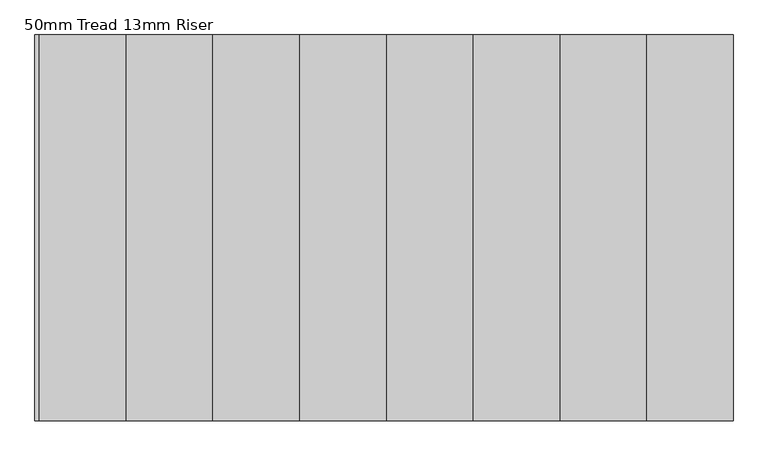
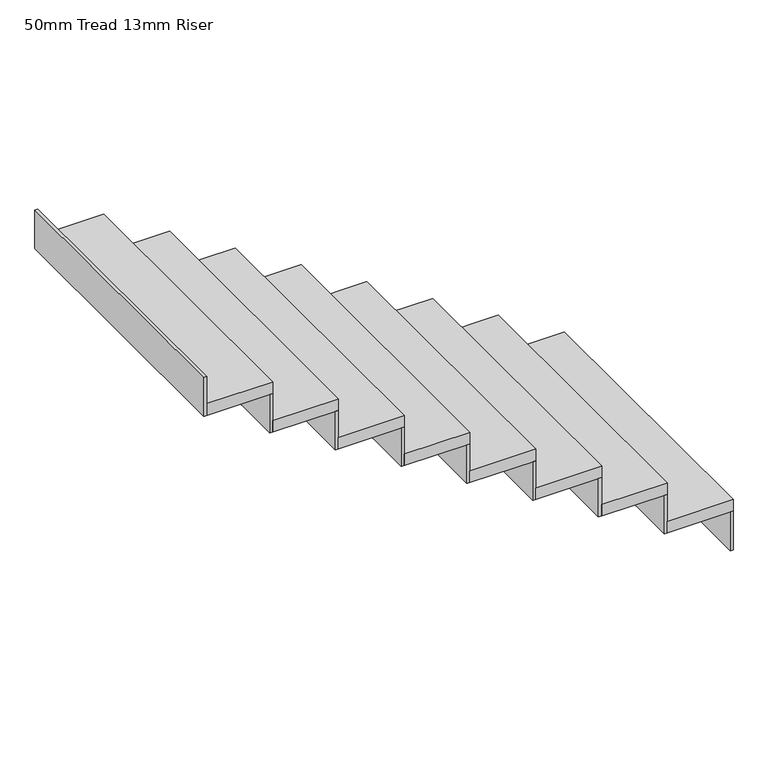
"""IFC4 building model written with IfcOpenShell, lengths in millimetres: stair flight geometry, 50mm Tread 13mm Riser."""

from ifc_helpers import new_model, si_unit, frame, origin, place, context, project, spatial, polyline, outline, extrude, source, transform, mapped, element, save


def stair_flight_50mm_tread_13mm_riser_b98c4656(model_context):
    return source(origin(), model_context, "Body", "SweptSolid", [
        extrude(outline(polyline([(-75811.0913038, 13392.1710387), (-75798.5913038, 13392.1710387), (-75798.5913038, 12192.1710387), (-75811.0913038, 12192.1710387), (-75811.0913038, 13392.1710387)])), frame((0.0, 0.0, 46612.5), z_axis=(0.0, 0.0, 1.0), x_axis=(1.0, 0.0, 0.0)), (0.0, 0.0, 1.0), 167.5),
        extrude(outline(polyline([(-76068.5913038, 12192.1710387), (-76068.5913038, 13392.1710387), (-75798.5913038, 13392.1710387), (-75798.5913038, 12192.1710387), (-76068.5913038, 12192.1710387)])), frame((0.0, 0.0, 46780.0), z_axis=(0.0, 0.0, 1.0), x_axis=(1.0, 0.0, 0.0)), (0.0, 0.0, 1.0), 50.0),
        extrude(outline(polyline([(-76081.0913038, 13392.1710387), (-76068.5913038, 13392.1710387), (-76068.5913038, 12192.1710387), (-76081.0913038, 12192.1710387), (-76081.0913038, 13392.1710387)])), frame((0.0, 0.0, 46780.0), z_axis=(0.0, 0.0, 1.0), x_axis=(1.0, 0.0, 0.0)), (0.0, 0.0, 1.0), 167.5),
        extrude(outline(polyline([(-76338.5913038, 12192.1710387), (-76338.5913038, 13392.1710387), (-76068.5913038, 13392.1710387), (-76068.5913038, 12192.1710387), (-76338.5913038, 12192.1710387)])), frame((0.0, 0.0, 46947.5), z_axis=(0.0, 0.0, 1.0), x_axis=(1.0, 0.0, 0.0)), (0.0, 0.0, 1.0), 50.0),
        extrude(outline(polyline([(-76351.0913038, 13392.1710387), (-76338.5913038, 13392.1710387), (-76338.5913038, 12192.1710387), (-76351.0913038, 12192.1710387), (-76351.0913038, 13392.1710387)])), frame((0.0, 0.0, 46947.5), z_axis=(0.0, 0.0, 1.0), x_axis=(1.0, 0.0, 0.0)), (0.0, 0.0, 1.0), 167.5),
        extrude(outline(polyline([(-76608.5913038, 12192.1710387), (-76608.5913038, 13392.1710387), (-76338.5913038, 13392.1710387), (-76338.5913038, 12192.1710387), (-76608.5913038, 12192.1710387)])), frame((0.0, 0.0, 47115.0), z_axis=(0.0, 0.0, 1.0), x_axis=(1.0, 0.0, 0.0)), (0.0, 0.0, 1.0), 50.0),
        extrude(outline(polyline([(-76621.0913038, 13392.1710387), (-76608.5913038, 13392.1710387), (-76608.5913038, 12192.1710387), (-76621.0913038, 12192.1710387), (-76621.0913038, 13392.1710387)])), frame((0.0, 0.0, 47115.0), z_axis=(0.0, 0.0, 1.0), x_axis=(1.0, 0.0, 0.0)), (0.0, 0.0, 1.0), 167.5),
        extrude(outline(polyline([(-76878.5913038, 12192.1710387), (-76878.5913038, 13392.1710387), (-76608.5913038, 13392.1710387), (-76608.5913038, 12192.1710387), (-76878.5913038, 12192.1710387)])), frame((0.0, 0.0, 47282.5), z_axis=(0.0, 0.0, 1.0), x_axis=(1.0, 0.0, 0.0)), (0.0, 0.0, 1.0), 50.0),
        extrude(outline(polyline([(-76891.0913038, 13392.1710387), (-76878.5913038, 13392.1710387), (-76878.5913038, 12192.1710387), (-76891.0913038, 12192.1710387), (-76891.0913038, 13392.1710387)])), frame((0.0, 0.0, 47282.5), z_axis=(0.0, 0.0, 1.0), x_axis=(1.0, 0.0, 0.0)), (0.0, 0.0, 1.0), 167.5),
        extrude(outline(polyline([(-77148.5913038, 12192.1710387), (-77148.5913038, 13392.1710387), (-76878.5913038, 13392.1710387), (-76878.5913038, 12192.1710387), (-77148.5913038, 12192.1710387)])), frame((0.0, 0.0, 47450.0), z_axis=(0.0, 0.0, 1.0), x_axis=(1.0, 0.0, 0.0)), (0.0, 0.0, 1.0), 50.0),
        extrude(outline(polyline([(-77161.0913038, 13392.1710387), (-77148.5913038, 13392.1710387), (-77148.5913038, 12192.1710387), (-77161.0913038, 12192.1710387), (-77161.0913038, 13392.1710387)])), frame((0.0, 0.0, 47450.0), z_axis=(0.0, 0.0, 1.0), x_axis=(1.0, 0.0, 0.0)), (0.0, 0.0, 1.0), 167.5),
        extrude(outline(polyline([(-77418.5913038, 12192.1710387), (-77418.5913038, 13392.1710387), (-77148.5913038, 13392.1710387), (-77148.5913038, 12192.1710387), (-77418.5913038, 12192.1710387)])), frame((0.0, 0.0, 47617.5), z_axis=(0.0, 0.0, 1.0), x_axis=(1.0, 0.0, 0.0)), (0.0, 0.0, 1.0), 50.0),
        extrude(outline(polyline([(-77431.0913038, 13392.1710387), (-77418.5913038, 13392.1710387), (-77418.5913038, 12192.1710387), (-77431.0913038, 12192.1710387), (-77431.0913038, 13392.1710387)])), frame((0.0, 0.0, 47617.5), z_axis=(0.0, 0.0, 1.0), x_axis=(1.0, 0.0, 0.0)), (0.0, 0.0, 1.0), 167.5),
        extrude(outline(polyline([(-77688.5913038, 12192.1710387), (-77688.5913038, 13392.1710387), (-77418.5913038, 13392.1710387), (-77418.5913038, 12192.1710387), (-77688.5913038, 12192.1710387)])), frame((0.0, 0.0, 47785.0), z_axis=(0.0, 0.0, 1.0), x_axis=(1.0, 0.0, 0.0)), (0.0, 0.0, 1.0), 50.0),
        extrude(outline(polyline([(-77701.0913038, 13392.1710387), (-77688.5913038, 13392.1710387), (-77688.5913038, 12192.1710387), (-77701.0913038, 12192.1710387), (-77701.0913038, 13392.1710387)])), frame((0.0, 0.0, 47785.0), z_axis=(0.0, 0.0, 1.0), x_axis=(1.0, 0.0, 0.0)), (0.0, 0.0, 1.0), 167.5),
        extrude(outline(polyline([(-77971.0913038, 13392.1710387), (-77958.5913038, 13392.1710387), (-77958.5913038, 12192.1710387), (-77971.0913038, 12192.1710387), (-77971.0913038, 13392.1710387)])), frame((0.0, 0.0, 47952.5), z_axis=(0.0, 0.0, 1.0), x_axis=(1.0, 0.0, 0.0)), (0.0, 0.0, 1.0), 167.5),
        extrude(outline(polyline([(-77958.5913038, 12192.1710387), (-77958.5913038, 13392.1710387), (-77688.5913038, 13392.1710387), (-77688.5913038, 12192.1710387), (-77958.5913038, 12192.1710387)])), frame((0.0, 0.0, 47952.5), z_axis=(0.0, 0.0, 1.0), x_axis=(1.0, 0.0, 0.0)), (0.0, 0.0, 1.0), 50.0),
    ])


if __name__ == "__main__":
    model = new_model("IFC4")
    model_context = context("Model", 3, world=origin())
    ifc_project = project(units=[si_unit("LENGTHUNIT", "METRE", prefix="MILLI")], contexts=[model_context])
    site = spatial("IfcSite", under=ifc_project)
    building = spatial("IfcBuilding", under=site)
    placement = place(None, origin())
    stair_flight_50mm_tread_13mm_riser_shape = stair_flight_50mm_tread_13mm_riser_b98c4656(model_context)
    element("IfcStairFlight", 1, ObjectType="50mm Tread 13mm Riser", at=placement, inside=building, context=model_context, shape_type="MappedRepresentation", body=[
        mapped(stair_flight_50mm_tread_13mm_riser_shape, transform((0.0, 0.0, 0.0), x_axis=(1.0, 0.0, 0.0), y_axis=(0.0, 1.0, 0.0), z_axis=(0.0, 0.0, 1.0))),
    ])
    save(model, "model.ifc")
